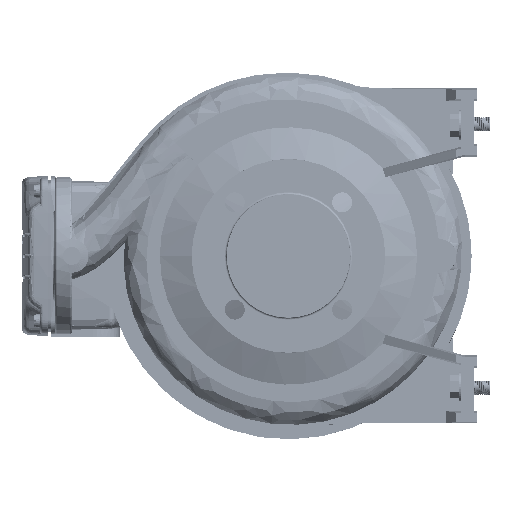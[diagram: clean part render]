
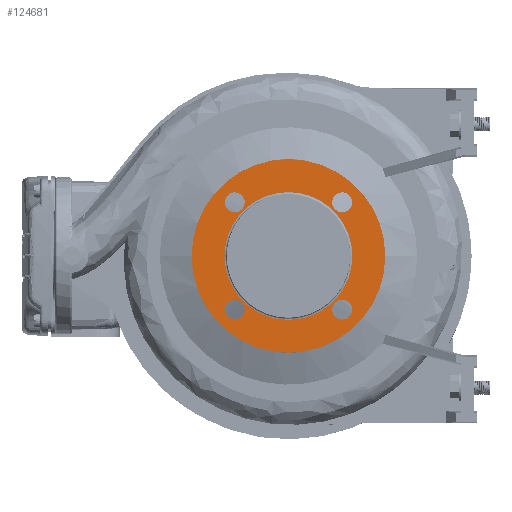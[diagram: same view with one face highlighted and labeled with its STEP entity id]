
A CAD part, left-side view. The second image highlights one B-rep face of the part: STEP entity #124681.
In plain terms, the highlighted planar face has unit normal (-1, 0, 0).
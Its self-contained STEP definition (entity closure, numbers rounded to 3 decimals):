
#5565 = ORIENTED_EDGE ( 'NONE', *, *, #48677, .F. ) ;
#6872 = DIRECTION ( 'NONE',  ( -1., 0., 0. ) ) ;
#8463 = DIRECTION ( 'NONE',  ( 0., 1., 0. ) ) ;
#8547 = DIRECTION ( 'NONE',  ( 0., -1., 0. ) ) ;
#8967 = VERTEX_POINT ( 'NONE', #88342 ) ;
#10579 = VERTEX_POINT ( 'NONE', #220947 ) ;
#12189 = AXIS2_PLACEMENT_3D ( 'NONE', #175960, #39436, #143809 ) ;
#17363 = DIRECTION ( 'NONE',  ( 0., 1., 0. ) ) ;
#17440 = FACE_BOUND ( 'NONE', #87685, .T. ) ;
#19521 = AXIS2_PLACEMENT_3D ( 'NONE', #109823, #179790, #144234 ) ;
#32265 = EDGE_LOOP ( 'NONE', ( #193830, #5565 ) ) ;
#33528 = AXIS2_PLACEMENT_3D ( 'NONE', #104585, #140176, #119563 ) ;
#34582 = FACE_BOUND ( 'NONE', #198571, .T. ) ;
#35156 = VERTEX_POINT ( 'NONE', #148548 ) ;
#36750 = DIRECTION ( 'NONE',  ( 0., 0., -1. ) ) ;
#39436 = DIRECTION ( 'NONE',  ( -1., 0., 0. ) ) ;
#39704 = VERTEX_POINT ( 'NONE', #67690 ) ;
#41368 = VERTEX_POINT ( 'NONE', #159204 ) ;
#41512 = EDGE_CURVE ( 'NONE', #154612, #181732, #79863, .T. ) ;
#42535 = CIRCLE ( 'NONE', #57094, 9.5 ) ;
#45937 = VERTEX_POINT ( 'NONE', #60791 ) ;
#48677 = EDGE_CURVE ( 'NONE', #39704, #41368, #71706, .T. ) ;
#49499 = DIRECTION ( 'NONE',  ( 0., 1., 0. ) ) ;
#53973 = DIRECTION ( 'NONE',  ( 1., 0., 0. ) ) ;
#54050 = DIRECTION ( 'NONE',  ( 0., -1., 0. ) ) ;
#56444 = ORIENTED_EDGE ( 'NONE', *, *, #215288, .T. ) ;
#57094 = AXIS2_PLACEMENT_3D ( 'NONE', #111682, #96712, #8547 ) ;
#57824 = CARTESIAN_POINT ( 'NONE',  ( -160.682, 143.21, 332.775 ) ) ;
#59265 = ORIENTED_EDGE ( 'NONE', *, *, #131718, .F. ) ;
#60478 = DIRECTION ( 'NONE',  ( 0., 0., -1. ) ) ;
#60791 = CARTESIAN_POINT ( 'NONE',  ( -160.682, 236.241, 435.306 ) ) ;
#66620 = EDGE_LOOP ( 'NONE', ( #184189, #90244 ) ) ;
#67690 = CARTESIAN_POINT ( 'NONE',  ( -160.682, 255.241, 332.775 ) ) ;
#69188 = CARTESIAN_POINT ( 'NONE',  ( -160.682, 152.71, 332.775 ) ) ;
#71239 = CARTESIAN_POINT ( 'NONE',  ( -160.682, 255.476, 384.041 ) ) ;
#71706 = CIRCLE ( 'NONE', #174233, 9.5 ) ;
#73804 = CARTESIAN_POINT ( 'NONE',  ( -160.682, 194.476, 384.041 ) ) ;
#75588 = CARTESIAN_POINT ( 'NONE',  ( -160.682, 143.21, 332.775 ) ) ;
#76454 = VERTEX_POINT ( 'NONE', #146802 ) ;
#78084 = AXIS2_PLACEMENT_3D ( 'NONE', #151601, #206615, #49499 ) ;
#78470 = CARTESIAN_POINT ( 'NONE',  ( -160.682, 245.741, 332.775 ) ) ;
#79863 = CIRCLE ( 'NONE', #208090, 9.5 ) ;
#87685 = EDGE_LOOP ( 'NONE', ( #56444, #160303 ) ) ;
#88342 = CARTESIAN_POINT ( 'NONE',  ( -160.682, 133.71, 332.775 ) ) ;
#90244 = ORIENTED_EDGE ( 'NONE', *, *, #201880, .F. ) ;
#91037 = VERTEX_POINT ( 'NONE', #133046 ) ;
#92845 = ORIENTED_EDGE ( 'NONE', *, *, #130614, .F. ) ;
#95899 = AXIS2_PLACEMENT_3D ( 'NONE', #142273, #53973, #17363 ) ;
#96712 = DIRECTION ( 'NONE',  ( -1., 0., 0. ) ) ;
#99049 = DIRECTION ( 'NONE',  ( 0., 0., 1. ) ) ;
#100005 = CIRCLE ( 'NONE', #19521, 9.5 ) ;
#100189 = DIRECTION ( 'NONE',  ( -1., 0., 0. ) ) ;
#104585 = CARTESIAN_POINT ( 'NONE',  ( -160.682, 194.476, 384.041 ) ) ;
#107351 = EDGE_CURVE ( 'NONE', #41368, #39704, #140338, .T. ) ;
#107753 = DIRECTION ( 'NONE',  ( 0., 1., 0. ) ) ;
#107914 = FACE_OUTER_BOUND ( 'NONE', #66620, .T. ) ;
#108275 = EDGE_LOOP ( 'NONE', ( #59265, #169798 ) ) ;
#108955 = DIRECTION ( 'NONE',  ( -1., 0., 0. ) ) ;
#109823 = CARTESIAN_POINT ( 'NONE',  ( -160.682, 245.741, 435.306 ) ) ;
#111682 = CARTESIAN_POINT ( 'NONE',  ( -160.682, 245.741, 435.306 ) ) ;
#114013 = EDGE_CURVE ( 'NONE', #177455, #8967, #150723, .T. ) ;
#115367 = CARTESIAN_POINT ( 'NONE',  ( -160.682, 133.476, 384.041 ) ) ;
#115379 = AXIS2_PLACEMENT_3D ( 'NONE', #193907, #108955, #36750 ) ;
#119563 = DIRECTION ( 'NONE',  ( 0., 1., 0. ) ) ;
#124681 = ADVANCED_FACE ( 'NONE', ( #210056, #174518, #34582, #176776, #17440, #107914 ), #143479, .T. ) ;
#127335 = CIRCLE ( 'NONE', #178770, 61. ) ;
#129973 = CIRCLE ( 'NONE', #115379, 9.5 ) ;
#130614 = EDGE_CURVE ( 'NONE', #181732, #154612, #129973, .T. ) ;
#131718 = EDGE_CURVE ( 'NONE', #45937, #91037, #42535, .T. ) ;
#133046 = CARTESIAN_POINT ( 'NONE',  ( -160.682, 255.241, 435.306 ) ) ;
#133210 = ORIENTED_EDGE ( 'NONE', *, *, #114013, .F. ) ;
#136180 = CIRCLE ( 'NONE', #33528, 61. ) ;
#140176 = DIRECTION ( 'NONE',  ( 1., 0., 0. ) ) ;
#140338 = CIRCLE ( 'NONE', #12189, 9.5 ) ;
#142273 = CARTESIAN_POINT ( 'NONE',  ( -160.682, 194.476, 384.041 ) ) ;
#143083 = CIRCLE ( 'NONE', #95899, 92.5 ) ;
#143479 = PLANE ( 'NONE',  #197508 ) ;
#143809 = DIRECTION ( 'NONE',  ( 0., 0., 1. ) ) ;
#144234 = DIRECTION ( 'NONE',  ( 0., -1., 0. ) ) ;
#146802 = CARTESIAN_POINT ( 'NONE',  ( -160.682, 286.976, 384.041 ) ) ;
#147642 = CARTESIAN_POINT ( 'NONE',  ( -160.682, 143.21, 435.306 ) ) ;
#148548 = CARTESIAN_POINT ( 'NONE',  ( -160.682, 101.976, 384.041 ) ) ;
#149301 = VERTEX_POINT ( 'NONE', #115367 ) ;
#150723 = CIRCLE ( 'NONE', #169084, 9.5 ) ;
#151601 = CARTESIAN_POINT ( 'NONE',  ( -160.682, 194.476, 384.041 ) ) ;
#152976 = EDGE_CURVE ( 'NONE', #8967, #177455, #175945, .T. ) ;
#154612 = VERTEX_POINT ( 'NONE', #168207 ) ;
#157366 = EDGE_CURVE ( 'NONE', #91037, #45937, #100005, .T. ) ;
#159204 = CARTESIAN_POINT ( 'NONE',  ( -160.682, 236.241, 332.775 ) ) ;
#159535 = EDGE_CURVE ( 'NONE', #149301, #10579, #136180, .T. ) ;
#160303 = ORIENTED_EDGE ( 'NONE', *, *, #159535, .T. ) ;
#160555 = CARTESIAN_POINT ( 'NONE',  ( -160.682, 152.71, 435.306 ) ) ;
#166002 = DIRECTION ( 'NONE',  ( -1., 0., 0. ) ) ;
#168207 = CARTESIAN_POINT ( 'NONE',  ( -160.682, 133.71, 435.306 ) ) ;
#169084 = AXIS2_PLACEMENT_3D ( 'NONE', #57824, #210444, #196630 ) ;
#169798 = ORIENTED_EDGE ( 'NONE', *, *, #157366, .F. ) ;
#174233 = AXIS2_PLACEMENT_3D ( 'NONE', #78470, #100189, #99049 ) ;
#174518 = FACE_BOUND ( 'NONE', #195472, .T. ) ;
#175945 = CIRCLE ( 'NONE', #190548, 9.5 ) ;
#175960 = CARTESIAN_POINT ( 'NONE',  ( -160.682, 245.741, 332.775 ) ) ;
#176776 = FACE_BOUND ( 'NONE', #108275, .T. ) ;
#177455 = VERTEX_POINT ( 'NONE', #69188 ) ;
#178770 = AXIS2_PLACEMENT_3D ( 'NONE', #73804, #213746, #8463 ) ;
#179790 = DIRECTION ( 'NONE',  ( -1., 0., 0. ) ) ;
#180612 = CIRCLE ( 'NONE', #78084, 92.5 ) ;
#181732 = VERTEX_POINT ( 'NONE', #160555 ) ;
#184189 = ORIENTED_EDGE ( 'NONE', *, *, #206380, .F. ) ;
#190548 = AXIS2_PLACEMENT_3D ( 'NONE', #75588, #6872, #107753 ) ;
#191229 = ORIENTED_EDGE ( 'NONE', *, *, #152976, .F. ) ;
#193830 = ORIENTED_EDGE ( 'NONE', *, *, #107351, .F. ) ;
#193907 = CARTESIAN_POINT ( 'NONE',  ( -160.682, 143.21, 435.306 ) ) ;
#195135 = DIRECTION ( 'NONE',  ( -1., 0., 0. ) ) ;
#195472 = EDGE_LOOP ( 'NONE', ( #191229, #133210 ) ) ;
#196630 = DIRECTION ( 'NONE',  ( 0., 1., 0. ) ) ;
#197508 = AXIS2_PLACEMENT_3D ( 'NONE', #71239, #195135, #54050 ) ;
#198571 = EDGE_LOOP ( 'NONE', ( #208332, #92845 ) ) ;
#201880 = EDGE_CURVE ( 'NONE', #35156, #76454, #143083, .T. ) ;
#206380 = EDGE_CURVE ( 'NONE', #76454, #35156, #180612, .T. ) ;
#206615 = DIRECTION ( 'NONE',  ( 1., 0., 0. ) ) ;
#208090 = AXIS2_PLACEMENT_3D ( 'NONE', #147642, #166002, #60478 ) ;
#208332 = ORIENTED_EDGE ( 'NONE', *, *, #41512, .F. ) ;
#210056 = FACE_BOUND ( 'NONE', #32265, .T. ) ;
#210444 = DIRECTION ( 'NONE',  ( -1., 0., 0. ) ) ;
#213746 = DIRECTION ( 'NONE',  ( 1., 0., 0. ) ) ;
#215288 = EDGE_CURVE ( 'NONE', #10579, #149301, #127335, .T. ) ;
#220947 = CARTESIAN_POINT ( 'NONE',  ( -160.682, 255.476, 384.041 ) ) ;
